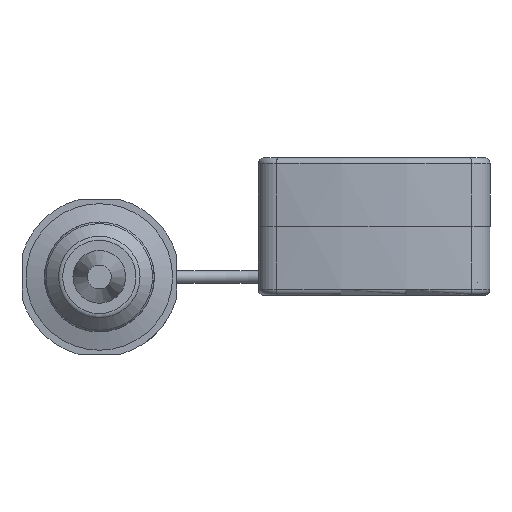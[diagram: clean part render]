
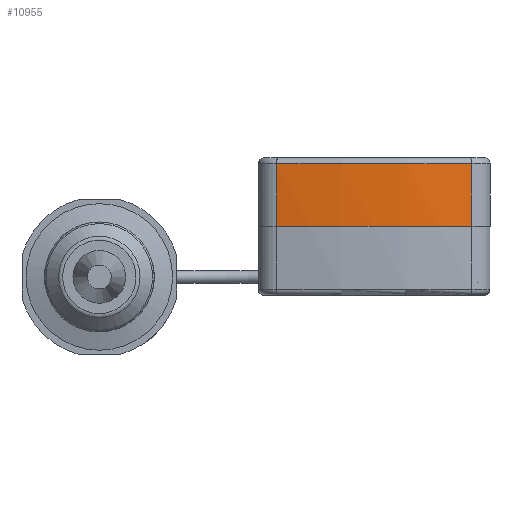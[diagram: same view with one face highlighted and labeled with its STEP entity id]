
A CAD part, front view. The second image highlights one B-rep face of the part: STEP entity #10955.
In plain terms, the highlighted cylindrical face has radius 139.7 mm (diameter 279.4 mm), a partial arc.
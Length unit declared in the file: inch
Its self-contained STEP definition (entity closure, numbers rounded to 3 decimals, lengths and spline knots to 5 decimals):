
#9793=CARTESIAN_POINT('',(120.80015,64.4945,-86.6313));
#9794=VERTEX_POINT('',#9793);
#9905=CARTESIAN_POINT('',(119.73707,64.59827,-86.6313));
#9906=VERTEX_POINT('',#9905);
#9907=CARTESIAN_POINT('',(120.8004,69.9945,-86.6313));
#9908=DIRECTION('',(0.0,0.0,-1.0));
#9909=DIRECTION('',(-1.0,0.0,0.0));
#9910=AXIS2_PLACEMENT_3D('',#9907,#9908,#9909);
#9911=CIRCLE('',#9910,5.5);
#9912=EDGE_CURVE('',#9794,#9906,#9911,.T.);
#10398=CARTESIAN_POINT('',(121.86374,64.59827,-86.6313));
#10399=VERTEX_POINT('',#10398);
#10407=CARTESIAN_POINT('',(120.8004,69.9945,-86.6313));
#10408=DIRECTION('',(0.0,0.0,-1.0));
#10409=DIRECTION('',(-1.0,0.0,0.0));
#10410=AXIS2_PLACEMENT_3D('',#10407,#10408,#10409);
#10411=CIRCLE('',#10410,5.5);
#10412=EDGE_CURVE('',#10399,#9794,#10411,.T.);
#10923=CARTESIAN_POINT('',(120.8004,69.9945,-86.6313));
#10924=DIRECTION('',(0.,0.,1.0));
#10925=DIRECTION('',(-1.0,0.0,0.0));
#10926=AXIS2_PLACEMENT_3D('',#10923,#10924,#10925);
#10927=CYLINDRICAL_SURFACE('',#10926,5.5);
#10928=CARTESIAN_POINT('',(119.73707,64.59827,-85.9443));
#10929=VERTEX_POINT('',#10928);
#10930=CARTESIAN_POINT('',(121.86374,64.59827,-85.9443));
#10931=VERTEX_POINT('',#10930);
#10932=CARTESIAN_POINT('',(120.8004,69.9945,-85.9443));
#10933=DIRECTION('',(0.0,0.0,1.0));
#10934=DIRECTION('',(0.0,-1.0,0.0));
#10935=AXIS2_PLACEMENT_3D('',#10932,#10933,#10934);
#10936=CIRCLE('',#10935,5.5);
#10937=EDGE_CURVE('',#10929,#10931,#10936,.T.);
#10938=ORIENTED_EDGE('',*,*,#10937,.F.);
#10939=CARTESIAN_POINT('',(119.73707,64.59827,-86.6313));
#10940=DIRECTION('',(0.0,0.0,1.0));
#10941=VECTOR('',#10940,0.687);
#10942=LINE('',#10939,#10941);
#10943=EDGE_CURVE('',#9906,#10929,#10942,.T.);
#10944=ORIENTED_EDGE('',*,*,#10943,.F.);
#10945=ORIENTED_EDGE('',*,*,#9912,.F.);
#10946=ORIENTED_EDGE('',*,*,#10412,.F.);
#10947=CARTESIAN_POINT('',(121.86374,64.59827,-86.6313));
#10948=DIRECTION('',(0.0,0.0,1.0));
#10949=VECTOR('',#10948,0.687);
#10950=LINE('',#10947,#10949);
#10951=EDGE_CURVE('',#10399,#10931,#10950,.T.);
#10952=ORIENTED_EDGE('',*,*,#10951,.T.);
#10953=EDGE_LOOP('',(#10938,#10944,#10945,#10946,#10952));
#10954=FACE_OUTER_BOUND('',#10953,.T.);
#10955=ADVANCED_FACE('',(#10954),#10927,.T.);
